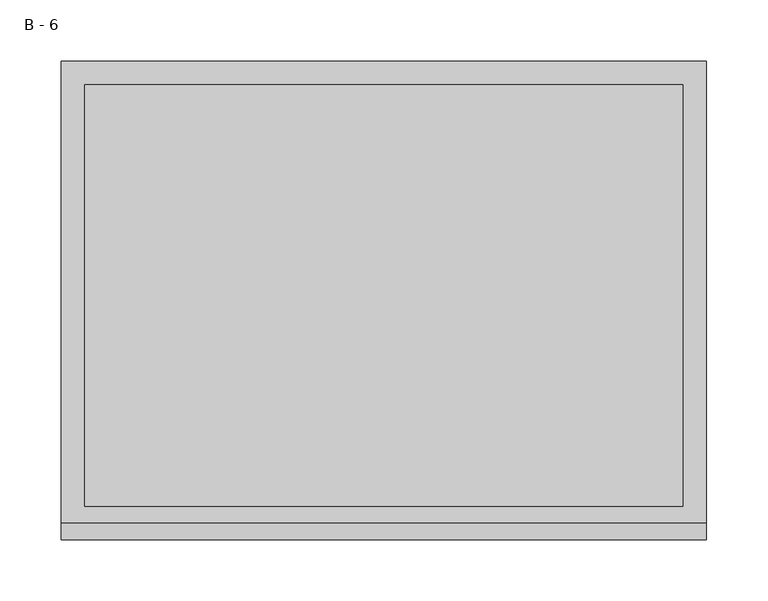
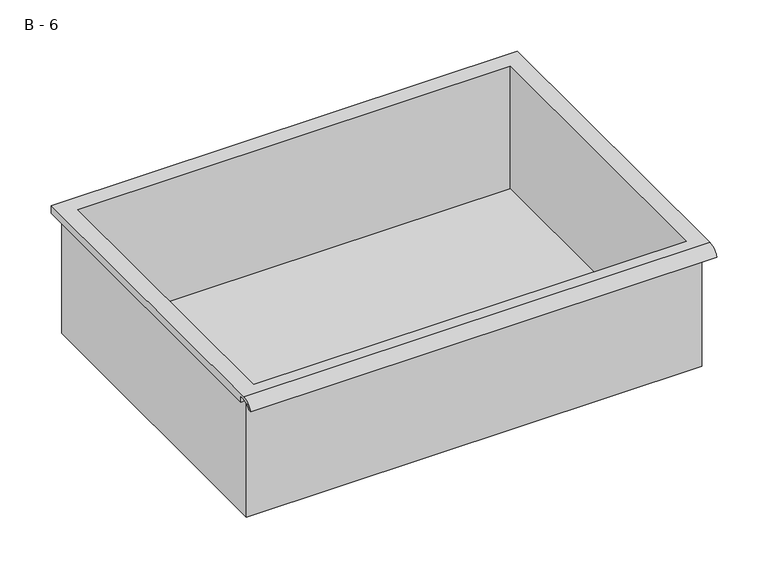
"""IFC4 building model written with IfcOpenShell, lengths in millimetres: furniture geometry, HermanMiller_CoStruc_CO207_Drawer : B - 6."""

from ifc_helpers import new_model, si_unit, frame, origin, place, context, project, spatial, polyline, circle_curve, source, transform, mapped, element, save
from ifc_brep_helpers import plane_surface, cylinder_surface, revolved_surface, advanced_brep


def b_6_d654d6fe(model_context):
    return source(origin(), model_context, "Body", "AdvancedBrep", [
        advanced_brep(
        [(-257.1076517, -176.2125, 265.90752), (257.2423483, -176.2125, 265.90752), (257.2423483, -176.2125, 405.60752), (263.5923483, -176.2125, 405.60752), (263.5923483, -176.2125, 411.9146541), (-263.4576517, -176.2125, 411.9146541), (-263.4576517, -176.2125, 405.60752), (-257.1076517, -176.2125, 405.60752), (257.2423483, 185.7375, 265.90752), (-257.1076517, 185.7375, 265.90752), (-257.1076517, 185.7375, 405.60752), (257.2423483, 185.7375, 405.60752), (263.5923483, -181.6070544, 415.13252), (263.5923483, 195.2625, 415.13252), (-263.4576517, 195.2625, 415.13252), (-263.4576517, -181.6070544, 415.13252), (244.5423483, -168.275, 415.13252), (-244.4076517, -168.275, 415.13252), (-244.4076517, 176.2125, 415.13252), (244.5423483, 176.2125, 415.13252), (263.5923483, -195.2625, 405.60752), (263.5923483, -191.8280601, 405.60752), (263.5923483, -180.4714815, 411.9146541), (263.5923483, 195.2625, 405.60752), (-263.4576517, 195.2625, 405.60752), (-263.4576517, -180.4714815, 411.9146541), (-263.4576517, -191.8280601, 405.60752), (-263.4576517, -195.2625, 405.60752), (-244.4076517, -168.275, 268.9336919), (244.5423483, -168.275, 268.9336919), (244.5423483, 176.2125, 268.9336919), (-244.4076517, 176.2125, 268.9336919)],
        [
            (0, 1),
            (1, 2),
            (2, 3),
            (3, 4),
            (4, 5),
            (5, 6),
            (6, 7),
            (7, 0),
            (8, 9),
            (9, 10),
            (10, 11),
            (11, 8),
            (0, 9),
            (8, 1),
            (11, 2),
            (12, 13),
            (13, 14),
            (14, 15),
            (15, 12),
            (16, 17),
            (17, 18),
            (18, 19),
            (19, 16),
            (7, 10),
            (12, 20, circle_curve(frame((263.5923483, -181.6070544, 400.5815059), z_axis=(1.0, 0.0, 0.0), x_axis=(0.0, 1.0, 0.0)), 14.5510141)),
            (20, 21),
            (21, 22, circle_curve(frame((263.5923483, -181.6070544, 400.5815059), z_axis=(-1.0, 0.0, 0.0), x_axis=(0.0, 1.0, 0.0)), 11.3898979)),
            (22, 4),
            (3, 23),
            (23, 13),
            (14, 24),
            (24, 6),
            (5, 25),
            (25, 26, circle_curve(frame((-263.4576517, -181.6070544, 400.5815059), z_axis=(1.0, 0.0, 0.0), x_axis=(0.0, 1.0, 0.0)), 11.3898979)),
            (26, 27),
            (27, 15, circle_curve(frame((-263.4576517, -181.6070544, 400.5815059), z_axis=(-1.0, 0.0, 0.0), x_axis=(0.0, 1.0, 0.0)), 14.5510141)),
            (27, 20),
            (26, 21),
            (25, 22),
            (24, 23),
            (28, 29),
            (29, 30),
            (30, 31),
            (31, 28),
            (28, 17),
            (16, 29),
            (19, 30),
            (18, 31),
        ],
        [
            plane_surface(frame((257.2423483, -176.2125, 265.90752), z_axis=(0.0, -1.0, 0.0), x_axis=(1.0, 0.0, 0.0))),
            plane_surface(frame((257.2423483, 185.7375, 265.90752), z_axis=(0.0, 1.0, 0.0), x_axis=(-1.0, 0.0, 0.0))),
            plane_surface(frame((-257.1076517, -176.2125, 265.90752), z_axis=(0.0, 0.0, -1.0), x_axis=(0.0, 1.0, 0.0))),
            plane_surface(frame((257.2423483, -176.2125, 265.90752), z_axis=(1.0, 0.0, 0.0), x_axis=(0.0, 1.0, 0.0))),
            plane_surface(frame((257.2423483, -176.2125, 415.13252), z_axis=(0.0, 0.0, 1.0), x_axis=(0.0, 1.0, 0.0))),
            plane_surface(frame((-257.1076517, -176.2125, 415.13252), z_axis=(-1.0, 0.0, 0.0), x_axis=(0.0, 1.0, 0.0))),
            plane_surface(frame((263.5923483, 195.2625, 415.13252), z_axis=(1.0, 0.0, 0.0), x_axis=(0.0, -1.0, 0.0))),
            plane_surface(frame((-263.4576517, 195.2625, 415.13252), z_axis=(-1.0, 0.0, 0.0), x_axis=(0.0, 1.0, 0.0))),
            cylinder_surface(frame((-263.4576517, -181.6070544, 400.5815059), z_axis=(1.0, 0.0, 0.0), x_axis=(0.0, 1.0, 0.0)), 14.5510141),
            plane_surface(frame((263.5923483, -195.2625, 405.60752), z_axis=(0.0, -7.232115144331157e-12, -1.0), x_axis=(-1.0, 0.0, 0.0))),
            revolved_surface(polyline([(-263.4576517, -170.21715650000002, 400.5815059), (263.59234829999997, -170.21715650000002, 400.5815059)]), (-263.4576517, -181.6070544, 400.5815059), (-1.0, 0.0, 0.0)),
            plane_surface(frame((263.5923483, -180.4714815, 411.9146541), z_axis=(0.0, -1.7877301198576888e-11, -1.0), x_axis=(-1.0, 0.0, 0.0))),
            plane_surface(frame((263.5923483, -176.2125, 405.60752), z_axis=(0.0, 0.0, -1.0), x_axis=(-1.0, 0.0, 0.0))),
            plane_surface(frame((263.5923483, 195.2625, 405.60752), z_axis=(0.0, 1.0, 0.0), x_axis=(-1.0, 0.0, 0.0))),
            plane_surface(frame((244.5423483, -168.275, 268.9336919), z_axis=(0.0, 0.0, 1.0), x_axis=(-1.0, 0.0, 0.0))),
            plane_surface(frame((-244.4076517, -168.275, 415.13252), z_axis=(0.0, 1.0, 0.0), x_axis=(0.0, 0.0, -1.0))),
            plane_surface(frame((244.5423483, -168.275, 415.13252), z_axis=(-1.0, 0.0, 0.0), x_axis=(0.0, 0.0, -1.0))),
            plane_surface(frame((244.5423483, 176.2125, 415.13252), z_axis=(0.0, -1.0, 0.0), x_axis=(0.0, 0.0, -1.0))),
            plane_surface(frame((-244.4076517, 176.2125, 415.13252), z_axis=(1.0, 0.0, 0.0), x_axis=(0.0, 0.0, -1.0))),
        ],
        [
            (0, [[1, 2, 3, 4, 5, 6, 7, 8]]),
            (1, [[9, 10, 11, 12]]),
            (2, [[-1, 13, -9, 14]]),
            (3, [[-14, -12, 15, -2]]),
            (4, [[16, 17, 18, 19], [20, 21, 22, 23]]),
            (5, [[-13, -8, 24, -10]]),
            (6, [[-16, 25, 26, 27, 28, -4, 29, 30]]),
            (7, [[31, 32, -6, 33, 34, 35, 36, -18]]),
            (8, [[-25, -19, -36, 37]]),
            (9, [[-26, -37, -35, 38]]),
            (10, [[-27, -38, -34, 39]]),
            (11, [[-28, -39, -33, -5]]),
            (12, [[-29, -3, -15, -11, -24, -7, -32, 40]]),
            (13, [[-30, -40, -31, -17]]),
            (14, [[41, 42, 43, 44]]),
            (15, [[-41, 45, -20, 46]]),
            (16, [[-42, -46, -23, 47]]),
            (17, [[-43, -47, -22, 48]]),
            (18, [[-44, -48, -21, -45]]),
        ],
    ),
    ])


if __name__ == "__main__":
    model = new_model("IFC4")
    model_context = context("Model", 3, world=origin())
    ifc_project = project(units=[si_unit("LENGTHUNIT", "METRE", prefix="MILLI")], contexts=[model_context])
    site = spatial("IfcSite", under=ifc_project)
    building = spatial("IfcBuilding", under=site)
    placement = place(None, origin())
    b_6_shape = b_6_d654d6fe(model_context)
    element("IfcFurniture", 1, ObjectType="HermanMiller_CoStruc_CO207_Drawer : B - 6", at=placement, inside=building, context=model_context, shape_type="MappedRepresentation", body=[
        mapped(b_6_shape, transform((0.0, 0.0, 0.0), x_axis=(1.0, 0.0, 0.0), y_axis=(0.0, 1.0, 0.0), z_axis=(0.0, 0.0, 1.0))),
    ])
    save(model, "model.ifc")
